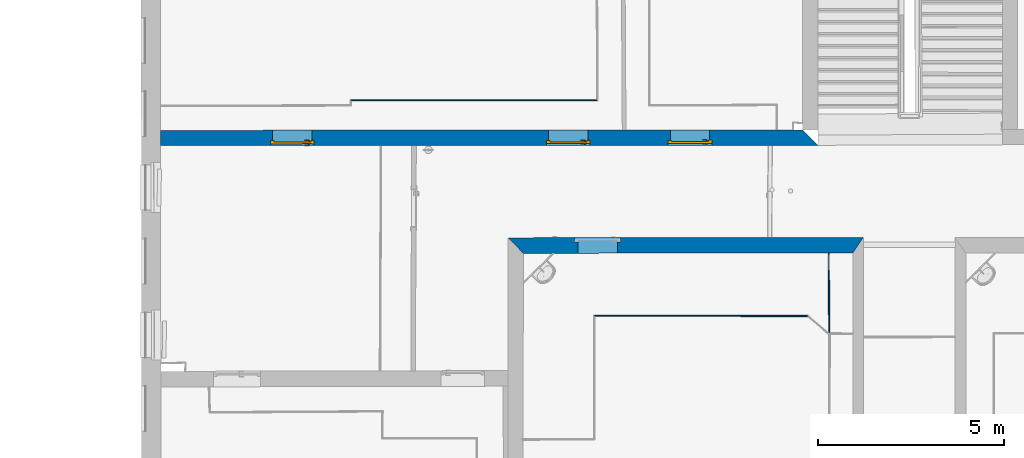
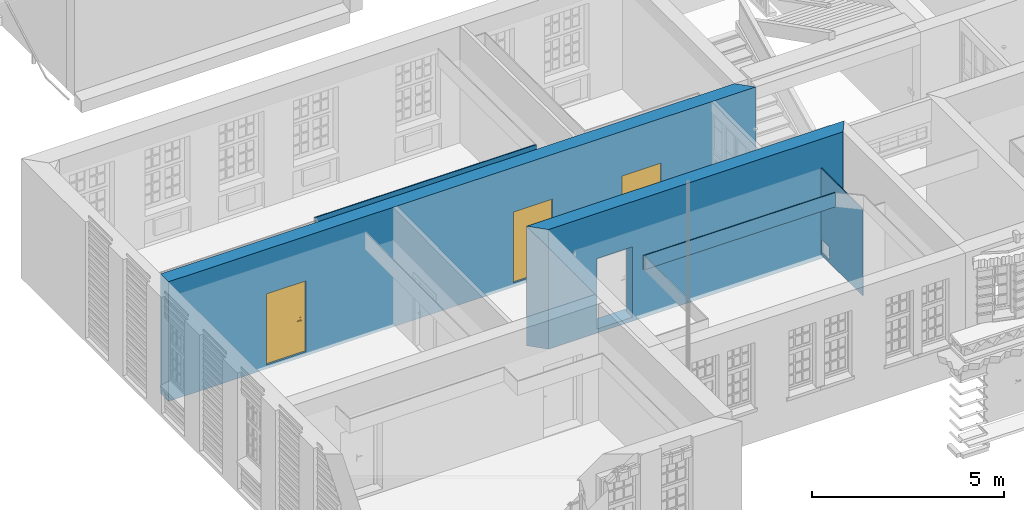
# One storey, part 21 of 158: 5 walls, 3 doors, 5 openings.
"""IFC2X3 building model written with IfcOpenShell, lengths in metres."""

from ifc_helpers import new_model, entity, si_unit, converted_unit, derived_unit, money_unit, direction, frame, origin_with_axes, origin_2d_with_axis, place, context, subcontext, project, spatial, polyline, rectangle, outline, extrude, faceted_brep, source, transform, mapped, material, layer, layer_set, layer_usage, type_object, element, fill, save


model = new_model("IFC2X3")

# Units and contexts
model_context = context("Model", 3, precision=1e-05, world=origin_with_axes(), true_north=direction((0.0, 1.0)))
body_context = subcontext(model_context, "Body", "Model", "MODEL_VIEW")
ifc_project = project(units=[si_unit("LENGTHUNIT", "METRE"), si_unit("AREAUNIT", "SQUARE_METRE"), si_unit("VOLUMEUNIT", "CUBIC_METRE"), converted_unit("PLANEANGLEUNIT", "DEGREE", entity("IfcPlaneAngleMeasure", 0.0174532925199), si_unit("PLANEANGLEUNIT", "RADIAN"), dimensions=[0, 0, 0, 0, 0, 0, 0]), money_unit("EUR"), converted_unit("TIMEUNIT", "Year", entity("IfcTimeMeasure", 31556926.0), si_unit("TIMEUNIT", "SECOND"), dimensions=[0, 0, 1, 0, 0, 0, 0]), si_unit("MASSUNIT", "GRAM", prefix="KILO"), si_unit("THERMODYNAMICTEMPERATUREUNIT", "DEGREE_CELSIUS"), si_unit("LUMINOUSINTENSITYUNIT", "LUMEN"), si_unit("ENERGYUNIT", "JOULE", prefix="MEGA"), derived_unit("THERMALCONDUCTANCEUNIT", [(si_unit("POWERUNIT", "WATT"), 1), (si_unit("LENGTHUNIT", "METRE"), -1), (si_unit("THERMODYNAMICTEMPERATUREUNIT", "KELVIN"), -1)]), derived_unit("SPECIFICHEATCAPACITYUNIT", [(si_unit("ENERGYUNIT", "JOULE"), 1), (si_unit("MASSUNIT", "GRAM", prefix="KILO"), -1), (si_unit("THERMODYNAMICTEMPERATUREUNIT", "KELVIN"), -1)]), derived_unit("MASSDENSITYUNIT", [(si_unit("MASSUNIT", "GRAM", prefix="KILO"), 1), (si_unit("VOLUMEUNIT", "CUBIC_METRE"), -1)])], contexts=[model_context])

# Site, building, storey
site_placement = place(None, origin_with_axes())
site = spatial("IfcSite", under=ifc_project, at=site_placement, Name="Gelände", CompositionType="ELEMENT")
building_placement = place(site_placement, origin_with_axes())
building = spatial("IfcBuilding", under=site, at=building_placement, Name="Gebäude", CompositionType="ELEMENT")
storey_placement = place(building_placement, origin_with_axes())
storey = spatial("IfcBuildingStorey", under=building, at=storey_placement, Name="ERDGESCHOSS", CompositionType="ELEMENT", Elevation=0.0)

# Wall, opening
ifc_material_1 = material(Name="05_ALLGEMEIN - TRAGENDE BAUTEILE")
ifc_layer_1 = layer(ifc_material_1, 0.42, ventilated="UNKNOWN")
ifc_layer_set_1 = layer_set([ifc_layer_1], Name="05_ALLGEMEIN - TRAGENDE BAUTEILE 0.42")
ifc_layer_usage_1 = layer_usage(ifc_layer_set_1, "AXIS2", "NEGATIVE", 0.42)
wall_type_1 = type_object("IfcWallType", Name="05_ALLGEMEIN - TRAGENDE BAUTEILE 420", PredefinedType="ELEMENTEDWALL")
wall_1_placement = place(storey_placement, frame((-8.89596887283, 16.7844638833, -0.21), z_axis=(0.0, 0.0, 1.0), x_axis=(-0.999998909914, -0.00147654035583, 0.0)))
wall_1 = element("IfcWallStandardCase", 1, at=wall_1_placement, inside=storey, type_object=wall_type_1, material=ifc_layer_usage_1, Name="Wand-036", ObjectType="ELEMENTEDWALL", context=body_context, shape_type="SweptSolid", body=[
    extrude(outline(polyline([(-0.280000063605, 0.0), (9.29327818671, 0.0), (8.87957934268, 0.42), (0.000283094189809, 0.42), (-0.280000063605, 0.0)])), origin_with_axes(), (0.0, 0.0, 1.0), 3.81),
])
opening_1_placement = place(wall_1_placement, frame((6.87879197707, 0.0, 0.129867), z_axis=(0.0, 0.0, 1.0), x_axis=(1.0, 0.0, 0.0)))
element("IfcOpeningElement", 2, at=opening_1_placement, cuts=wall_1, Name="Tür-022", context=body_context, shape_type="SweptSolid", body=[
    extrude(rectangle(XDim=1.05907517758, YDim=2.24387033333, at=origin_2d_with_axis()), frame((0.0, 0.12, 1.12193516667), z_axis=(0.0, 1.0, 0.0), x_axis=(1.0, 0.0, 0.0)), (0.0, 0.0, 1.0), 0.72),
    extrude(rectangle(XDim=1.23907517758, YDim=2.33387033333, at=origin_2d_with_axis()), frame((0.0, 0.03, 1.16693516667), z_axis=(0.0, -1.0, 0.0), x_axis=(1.0, 0.0, 0.0)), (0.0, 0.0, -1.0), 0.09),
    extrude(rectangle(XDim=1.23907517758, YDim=2.33387033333, at=origin_2d_with_axis()), frame((0.0, 0.03, 1.16693516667), z_axis=(0.0, -1.0, 0.0), x_axis=(1.0, 0.0, 0.0)), (0.0, 0.0, 1.0), 0.45),
])

ifc_material_2 = material(Name="43_Gipskarton")
ifc_layer_2 = layer(ifc_material_2, 0.03, ventilated="UNKNOWN")
ifc_layer_set_2 = layer_set([ifc_layer_2], Name="43_Gipskarton 0.03")
ifc_layer_usage_2 = layer_usage(ifc_layer_set_2, "AXIS2", "NEGATIVE", 0.03)
wall_type_2 = type_object("IfcWallType", Name="43_Gipskarton 30", PredefinedType="ELEMENTEDWALL")
wall_2_placement = place(storey_placement, frame((-9.563390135, 16.7834784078, -0.08), z_axis=(0.0, 0.0, 1.0), x_axis=(0.00328979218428, -0.999994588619, 0.0)))
wall_2 = element("IfcWallStandardCase", 3, at=wall_2_placement, inside=storey, type_object=wall_type_2, material=ifc_layer_usage_2, Name="Wand-033", ObjectType="ELEMENTEDWALL", context=body_context, shape_type="SweptSolid", body=[
    extrude(outline(polyline([(0.42000069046, 0.0), (2.60498825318, 0.0), (2.57522811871, 0.03), (0.420055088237, 0.03), (0.42000069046, 0.0)])), origin_with_axes(), (0.0, 0.0, 1.0), 2.755),
])
opening_2_placement = place(wall_2_placement, frame((0.669728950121, 0.0, 0.102871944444), z_axis=(0.0, 0.0, 1.0), x_axis=(1.0, 0.0, 0.0)))
element("IfcOpeningElement", 4, at=opening_2_placement, cuts=wall_2, Name="Tür-022", context=body_context, shape_type="SweptSolid", body=[
    extrude(rectangle(XDim=0.40005727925, YDim=0.399785, at=origin_2d_with_axis()), frame((0.0, 0.03, 0.1998925), z_axis=(0.0, -1.0, 0.0), x_axis=(-1.0, 0.0, 0.0)), (0.0, 0.0, 1.0), 0.09),
])

# Walls
ifc_layer_usage_3 = layer_usage(ifc_layer_set_2, "AXIS2", "NEGATIVE", 0.03)
wall_3_placement = place(storey_placement, frame((-15.7943394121, 20.4846184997, 2.565), z_axis=(0.0, 0.0, 1.0), x_axis=(-0.999999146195, 0.00130675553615, 0.0)))
element("IfcWallStandardCase", 5, at=wall_3_placement, inside=storey, type_object=wall_type_2, material=ifc_layer_usage_3, Name="Wand-039", ObjectType="ELEMENTEDWALL", context=body_context, shape_type="SweptSolid", body=[
    extrude(outline(polyline([(0.0, 0.0), (6.64618609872, 0.0), (6.61614687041, 0.03), (-0.0301915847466, 0.03), (0.0, 0.0)])), origin_with_axes(), (0.0, 0.0, 1.0), 0.55),
])
ifc_layer_usage_4 = layer_usage(ifc_layer_set_2, "AXIS2", "NEGATIVE", 0.03)
wall_4_placement = place(storey_placement, frame((-15.84994821, 14.6575733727, 2.675), z_axis=(0.0, 0.0, 1.0), x_axis=(0.999998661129, -0.00163638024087, 0.0)))
element("IfcWallStandardCase", 6, at=wall_4_placement, inside=storey, type_object=wall_type_2, material=ifc_layer_usage_4, Name="Wand-041", ObjectType="ELEMENTEDWALL", context=body_context, shape_type="SweptSolid", body=[
    extrude(outline(polyline([(0.0, 0.0), (5.73126220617, 0.0), (5.74222851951, 0.03), (-0.0300583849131, 0.03), (0.0, 0.0)])), origin_with_axes(), (0.0, 0.0, 1.0), 0.455),
])

# Wall, openings, doors
ifc_layer_3 = layer(ifc_material_1, 0.414615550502, ventilated="UNKNOWN")
ifc_layer_set_3 = layer_set([ifc_layer_3], Name="05_ALLGEMEIN - TRAGENDE BAUTEILE 0.414616")
ifc_layer_usage_5 = layer_usage(ifc_layer_set_3, "AXIS2", "NEGATIVE", 0.414615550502)
wall_type_3 = type_object("IfcWallType", Name="05_ALLGEMEIN - TRAGENDE BAUTEILE 415", PredefinedType="ELEMENTEDWALL")
wall_5_placement = place(storey_placement, frame((-28.0623896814, 19.2499160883, -0.21), z_axis=(0.0, 0.0, 1.0), x_axis=(0.999999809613, 0.00061706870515, 0.0)))
wall_5 = element("IfcWallStandardCase", 7, at=wall_5_placement, inside=storey, type_object=wall_type_3, material=ifc_layer_usage_5, Name="Wand-038", ObjectType="ELEMENTEDWALL", context=body_context, shape_type="SweptSolid", body=[
    extrude(outline(polyline([(0.520000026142, 0.0), (18.2209125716, 0.0), (17.8111293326, 0.414615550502), (0.519868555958, 0.414615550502), (0.520000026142, 0.0)])), origin_with_axes(), (0.0, 0.0, 1.0), 3.81),
])
opening_3_placement = place(wall_5_placement, frame((14.7743915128, 0.0, 0.129867), z_axis=(0.0, 0.0, 1.0), x_axis=(1.0, 0.0, 0.0)))
opening_3 = element("IfcOpeningElement", 8, at=opening_3_placement, cuts=wall_5, Name="Tür-023", context=body_context, shape_type="SweptSolid", body=[
    extrude(rectangle(XDim=1.05848170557, YDim=2.198423, at=origin_2d_with_axis()), frame((0.0, 0.138431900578, 1.0992115), z_axis=(0.0, -1.0, 0.0), x_axis=(-1.0, 0.0, 0.0)), (0.0, 0.0, -1.0), 0.690799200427),
    extrude(rectangle(XDim=1.17848170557, YDim=2.258423, at=origin_2d_with_axis()), frame((0.0, 0.0484319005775, 1.1292115), z_axis=(0.0, 1.0, 0.0), x_axis=(-1.0, 0.0, 0.0)), (0.0, 0.0, 1.0), 0.09),
    extrude(rectangle(XDim=1.17848170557, YDim=2.258423, at=origin_2d_with_axis()), frame((0.0, 0.0484319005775, 1.1292115), z_axis=(0.0, 1.0, 0.0), x_axis=(-1.0, 0.0, 0.0)), (0.0, 0.0, -1.0), 0.46304745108),
])
opening_4_placement = place(wall_5_placement, frame((4.06768350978, 0.0, 0.129867), z_axis=(0.0, 0.0, 1.0), x_axis=(1.0, 0.0, 0.0)))
opening_4 = element("IfcOpeningElement", 9, at=opening_4_placement, cuts=wall_5, Name="Tür-023", context=body_context, shape_type="SweptSolid", body=[
    extrude(rectangle(XDim=1.05848170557, YDim=2.198423, at=origin_2d_with_axis()), frame((0.0, 0.138431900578, 1.0992115), z_axis=(0.0, -1.0, 0.0), x_axis=(-1.0, 0.0, 0.0)), (0.0, 0.0, -1.0), 0.690799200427),
    extrude(rectangle(XDim=1.17848170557, YDim=2.258423, at=origin_2d_with_axis()), frame((0.0, 0.0484319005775, 1.1292115), z_axis=(0.0, 1.0, 0.0), x_axis=(-1.0, 0.0, 0.0)), (0.0, 0.0, 1.0), 0.09),
    extrude(rectangle(XDim=1.17848170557, YDim=2.258423, at=origin_2d_with_axis()), frame((0.0, 0.0484319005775, 1.1292115), z_axis=(0.0, 1.0, 0.0), x_axis=(-1.0, 0.0, 0.0)), (0.0, 0.0, -1.0), 0.46304745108),
])
opening_5_placement = place(wall_5_placement, frame((11.4995060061, 0.0, 0.129867), z_axis=(0.0, 0.0, 1.0), x_axis=(1.0, 0.0, 0.0)))
opening_5 = element("IfcOpeningElement", 10, at=opening_5_placement, cuts=wall_5, Name="Tür-023", context=body_context, shape_type="SweptSolid", body=[
    extrude(rectangle(XDim=1.05848170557, YDim=2.198423, at=origin_2d_with_axis()), frame((0.0, 0.138431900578, 1.0992115), z_axis=(0.0, -1.0, 0.0), x_axis=(-1.0, 0.0, 0.0)), (0.0, 0.0, -1.0), 0.690799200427),
    extrude(rectangle(XDim=1.17848170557, YDim=2.258423, at=origin_2d_with_axis()), frame((0.0, 0.0484319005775, 1.1292115), z_axis=(0.0, 1.0, 0.0), x_axis=(-1.0, 0.0, 0.0)), (0.0, 0.0, 1.0), 0.09),
    extrude(rectangle(XDim=1.17848170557, YDim=2.258423, at=origin_2d_with_axis()), frame((0.0, 0.0484319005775, 1.1292115), z_axis=(0.0, 1.0, 0.0), x_axis=(-1.0, 0.0, 0.0)), (0.0, 0.0, -1.0), 0.46304745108),
])
door_style = type_object("IfcDoorStyle", Name="Blockrahmentür 1-Fl 25", ConstructionType="NOTDEFINED", OperationType="SINGLE_SWING_RIGHT", ParameterTakesPrecedence=False, Sizeable=False)
shared_shape = source(origin_with_axes(), body_context, "Body", "Brep", [
    faceted_brep([(0.589240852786, -0.09, 0.0), (0.589240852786, -0.05, 0.0), (0.589240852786, -0.05, 2.258423), (0.589240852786, -0.09, 2.258423), (0.499240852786, -0.09, 0.0), (0.499240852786, -0.05, 0.0), (0.499240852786, -0.05, 2.168423), (0.1121, -0.05, 2.168423), (0.0001, -0.05, 2.168423), (-0.499240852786, -0.05, 2.168423), (-0.499240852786, -0.05, 0.0), (-0.589240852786, -0.05, 0.0), (-0.589240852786, -0.05, 2.258423), (-0.589240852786, -0.09, 2.258423), (-0.589240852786, -0.09, 0.0), (-0.499240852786, -0.09, 0.0), (-0.499240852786, -0.09, 2.168423), (0.0001, -0.09, 2.168423), (0.1121, -0.09, 2.168423), (0.499240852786, -0.09, 2.168423)], [[[0, 1, 2, 3]], [[4, 5, 1, 0]], [[1, 5, 6, 7, 8, 9, 10, 11, 12, 2]], [[3, 2, 12, 13]], [[0, 3, 13, 14, 15, 16, 17, 18, 19, 4]], [[19, 6, 5, 4]], [[18, 7, 6, 19]], [[17, 8, 7, 18]], [[16, 9, 8, 17]], [[15, 10, 9, 16]], [[14, 11, 10, 15]], [[13, 12, 11, 14]]]),
    faceted_brep([(0.589240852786, -0.05, 0.0), (0.589240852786, 0.0, 0.0), (0.589240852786, 0.0, 2.258423), (0.589240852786, -0.05, 2.258423), (0.511240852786, -0.05, 0.0), (0.511240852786, 0.0, 0.0), (0.511240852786, 0.0, 2.180423), (0.1001, 0.0, 2.180423), (0.0121, 0.0, 2.180423), (-0.511240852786, 0.0, 2.180423), (-0.511240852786, 0.0, 0.0), (-0.589240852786, 0.0, 0.0), (-0.589240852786, 0.0, 2.258423), (-0.589240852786, -0.05, 2.258423), (-0.589240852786, -0.05, 0.0), (-0.511240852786, -0.05, 0.0), (-0.511240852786, -0.05, 2.180423), (0.0121, -0.05, 2.180423), (0.1001, -0.05, 2.180423), (0.511240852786, -0.05, 2.180423)], [[[0, 1, 2, 3]], [[4, 5, 1, 0]], [[1, 5, 6, 7, 8, 9, 10, 11, 12, 2]], [[3, 2, 12, 13]], [[0, 3, 13, 14, 15, 16, 17, 18, 19, 4]], [[19, 6, 5, 4]], [[18, 7, 6, 19]], [[17, 8, 7, 18]], [[16, 9, 8, 17]], [[15, 10, 9, 16]], [[14, 11, 10, 15]], [[13, 12, 11, 14]]]),
    faceted_brep([(0.511240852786, -0.002, 0.0), (-0.511240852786, -0.002, 0.0), (-0.511240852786, -0.002, 2.180423), (0.511240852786, -0.002, 2.180423), (0.511240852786, -0.05, 0.0), (-0.511240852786, -0.05, 0.0), (-0.511240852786, -0.05, 2.180423), (0.511240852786, -0.05, 2.180423)], [[[0, 1, 2, 3]], [[1, 0, 4, 5]], [[2, 1, 5, 6]], [[3, 2, 6, 7]], [[0, 3, 7, 4]], [[5, 4, 7, 6]]]),
    faceted_brep([(-0.455943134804, -0.09, 1.05647213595), (-0.451240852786, -0.09, 1.058), (-0.451240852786, -0.07, 1.058), (-0.455943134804, -0.07, 1.05647213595), (-0.458849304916, -0.09, 1.05247213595), (-0.458849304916, -0.09, 1.04752786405), (-0.455943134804, -0.09, 1.04352786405), (-0.451240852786, -0.09, 1.042), (-0.446538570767, -0.09, 1.04352786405), (-0.443632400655, -0.09, 1.04752786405), (-0.443632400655, -0.09, 1.05247213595), (-0.446538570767, -0.09, 1.05647213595), (-0.446538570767, -0.07, 1.05647213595), (-0.451240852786, -0.068, 1.06), (-0.457118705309, -0.068, 1.05809016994), (-0.458849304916, -0.07, 1.05247213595), (-0.458849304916, -0.07, 1.04752786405), (-0.455943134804, -0.07, 1.04352786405), (-0.451240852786, -0.07, 1.042), (-0.446538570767, -0.07, 1.04352786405), (-0.443632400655, -0.07, 1.04752786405), (-0.443632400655, -0.07, 1.05247213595), (-0.445363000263, -0.068, 1.05809016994), (-0.451240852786, -0.06, 1.06), (-0.457118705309, -0.06, 1.05809016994), (-0.460751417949, -0.068, 1.05309016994), (-0.460751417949, -0.068, 1.04690983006), (-0.457118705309, -0.068, 1.04190983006), (-0.451240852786, -0.068, 1.04), (-0.445363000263, -0.068, 1.04190983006), (-0.441730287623, -0.068, 1.04690983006), (-0.441730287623, -0.068, 1.05309016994), (-0.445363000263, -0.06, 1.05809016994), (-0.441730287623, -0.06, 1.05309016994), (-0.441730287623, -0.06, 1.04690983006), (-0.445363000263, -0.06, 1.04190983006), (-0.451240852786, -0.06, 1.04), (-0.457118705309, -0.06, 1.04190983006), (-0.460751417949, -0.06, 1.04690983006), (-0.460751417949, -0.06, 1.05309016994)], [[[0, 1, 2, 3]], [[1, 0, 4, 5, 6, 7, 8, 9, 10, 11]], [[1, 11, 12, 2]], [[3, 2, 13, 14]], [[4, 0, 3, 15]], [[5, 4, 15, 16]], [[6, 5, 16, 17]], [[7, 6, 17, 18]], [[8, 7, 18, 19]], [[9, 8, 19, 20]], [[10, 9, 20, 21]], [[11, 10, 21, 12]], [[2, 12, 22, 13]], [[14, 13, 23, 24]], [[15, 3, 14, 25]], [[16, 15, 25, 26]], [[17, 16, 26, 27]], [[18, 17, 27, 28]], [[19, 18, 28, 29]], [[20, 19, 29, 30]], [[21, 20, 30, 31]], [[12, 21, 31, 22]], [[13, 22, 32, 23]], [[23, 32, 33, 34, 35, 36, 37, 38, 39, 24]], [[25, 14, 24, 39]], [[26, 25, 39, 38]], [[27, 26, 38, 37]], [[28, 27, 37, 36]], [[29, 28, 36, 35]], [[30, 29, 35, 34]], [[31, 30, 34, 33]], [[22, 31, 33, 32]]]),
    faceted_brep([(-0.439052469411, -0.06, 1.11759695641), (-0.446797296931, -0.06, 1.12195567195), (-0.45568440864, -0.06, 1.12195567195), (-0.463429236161, -0.06, 1.11759695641), (-0.468040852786, -0.06, 1.11), (-0.473740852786, -0.06, 1.11), (-0.473740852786, -0.06, 0.89), (-0.468040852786, -0.06, 0.89), (-0.463429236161, -0.06, 0.882403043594), (-0.45568440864, -0.06, 0.878044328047), (-0.446797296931, -0.06, 0.878044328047), (-0.439052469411, -0.06, 0.882403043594), (-0.434440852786, -0.06, 0.89), (-0.428740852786, -0.06, 0.89), (-0.428740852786, -0.06, 1.11), (-0.434440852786, -0.06, 1.11), (-0.451240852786, -0.06, 0.967425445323), (-0.445865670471, -0.06, 0.965143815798), (-0.44377302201, -0.06, 0.959692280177), (-0.446240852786, -0.06, 0.9544), (-0.446240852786, -0.06, 0.9375), (-0.44770531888, -0.06, 0.933964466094), (-0.451240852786, -0.06, 0.9325), (-0.454776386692, -0.06, 0.933964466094), (-0.456240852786, -0.06, 0.9375), (-0.456240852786, -0.06, 0.9544), (-0.458708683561, -0.06, 0.959692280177), (-0.456616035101, -0.06, 0.965143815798), (-0.439052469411, -0.05, 1.11759695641), (-0.446797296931, -0.05, 1.12195567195), (-0.45568440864, -0.05, 1.12195567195), (-0.463429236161, -0.05, 1.11759695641), (-0.468040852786, -0.05, 1.11), (-0.473740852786, -0.05, 1.11), (-0.473740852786, -0.05, 0.89), (-0.468040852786, -0.05, 0.89), (-0.463429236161, -0.05, 0.882403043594), (-0.45568440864, -0.05, 0.878044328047), (-0.446797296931, -0.05, 0.878044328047), (-0.439052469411, -0.05, 0.882403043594), (-0.434440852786, -0.05, 0.89), (-0.428740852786, -0.05, 0.89), (-0.428740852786, -0.05, 1.11), (-0.434440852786, -0.05, 1.11), (-0.451240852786, -0.05, 0.967425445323), (-0.445865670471, -0.05, 0.965143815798), (-0.44377302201, -0.05, 0.959692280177), (-0.446240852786, -0.05, 0.9544), (-0.446240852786, -0.05, 0.9375), (-0.44770531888, -0.05, 0.933964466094), (-0.451240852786, -0.05, 0.9325), (-0.454776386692, -0.05, 0.933964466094), (-0.456240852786, -0.05, 0.9375), (-0.456240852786, -0.05, 0.9544), (-0.458708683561, -0.05, 0.959692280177), (-0.456616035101, -0.05, 0.965143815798)], [[[0, 1, 2, 3, 4, 5, 6, 7, 8, 9, 10, 11, 12, 13, 14, 15], [16, 17, 18, 19, 20, 21, 22, 23, 24, 25, 26, 27]], [[1, 0, 28, 29]], [[2, 1, 29, 30]], [[3, 2, 30, 31]], [[4, 3, 31, 32]], [[5, 4, 32, 33]], [[6, 5, 33, 34]], [[7, 6, 34, 35]], [[8, 7, 35, 36]], [[9, 8, 36, 37]], [[10, 9, 37, 38]], [[11, 10, 38, 39]], [[12, 11, 39, 40]], [[13, 12, 40, 41]], [[14, 13, 41, 42]], [[15, 14, 42, 43]], [[0, 15, 43, 28]], [[17, 16, 44, 45]], [[18, 17, 45, 46]], [[19, 18, 46, 47]], [[19, 47, 48, 20]], [[20, 48, 49, 21]], [[21, 49, 50, 22]], [[22, 50, 51, 23]], [[23, 51, 52, 24]], [[53, 25, 24, 52]], [[26, 25, 53, 54]], [[27, 26, 54, 55]], [[16, 27, 55, 44]], [[40, 39, 38, 37, 36, 35, 34, 33, 32, 31, 30, 29, 28, 43, 42, 41], [54, 53, 52, 51, 50, 49, 48, 47, 46, 45, 44, 55]]]),
    faceted_brep([(-0.336987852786, -0.09, 1.057158), (-0.336987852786, -0.105, 1.057158), (-0.336986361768, -0.105, 1.05719388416), (-0.336986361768, -0.09, 1.05719388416), (-0.364015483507, -0.09, 1.06432652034), (-0.364015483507, -0.105, 1.06432652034), (-0.391843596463, -0.105, 1.06706086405), (-0.419749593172, -0.105, 1.06529002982), (-0.447008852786, -0.105, 1.05906), (-0.453411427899, -0.105, 1.05976125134), (-0.458913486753, -0.105, 1.05641280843), (-0.461232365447, -0.105, 1.05040385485), (-0.459406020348, -0.105, 1.04422735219), (-0.45419215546, -0.105, 1.04044577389), (-0.44775387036, -0.105, 1.04062800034), (-0.44276224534, -0.105, 1.04469843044), (-0.442782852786, -0.105, 1.044666), (-0.417494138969, -0.105, 1.05019878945), (-0.391651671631, -0.105, 1.05171460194), (-0.365889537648, -0.105, 1.04917624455), (-0.340839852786, -0.105, 1.042646), (-0.335296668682, -0.105, 1.04356849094), (-0.331935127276, -0.105, 1.04807159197), (-0.332626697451, -0.105, 1.05364829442), (-0.332626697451, -0.09, 1.05364829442), (-0.331935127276, -0.09, 1.04807159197), (-0.335296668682, -0.09, 1.04356849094), (-0.340839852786, -0.09, 1.042646), (-0.365889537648, -0.09, 1.04917624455), (-0.391651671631, -0.09, 1.05171460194), (-0.417494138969, -0.09, 1.05019878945), (-0.442782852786, -0.09, 1.044666), (-0.44276224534, -0.09, 1.04469843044), (-0.44775387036, -0.09, 1.04062800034), (-0.45419215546, -0.09, 1.04044577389), (-0.459406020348, -0.09, 1.04422735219), (-0.461232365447, -0.09, 1.05040385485), (-0.458913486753, -0.09, 1.05641280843), (-0.453411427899, -0.09, 1.05976125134), (-0.447008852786, -0.09, 1.05906), (-0.419749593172, -0.09, 1.06529002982), (-0.391843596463, -0.09, 1.06706086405)], [[[0, 1, 2, 3]], [[4, 5, 1, 0]], [[1, 5, 6, 7, 8, 9, 10, 11, 12, 13, 14, 15, 16, 17, 18, 19, 20, 21, 22, 23, 2]], [[3, 2, 23, 24]], [[0, 3, 24, 25, 26, 27, 28, 29, 30, 31, 32, 33, 34, 35, 36, 37, 38, 39, 40, 41, 4]], [[41, 6, 5, 4]], [[40, 7, 6, 41]], [[39, 8, 7, 40]], [[38, 9, 8, 39]], [[37, 10, 9, 38]], [[36, 11, 10, 37]], [[35, 12, 11, 36]], [[34, 13, 12, 35]], [[33, 14, 13, 34]], [[32, 15, 14, 33]], [[31, 16, 15, 32]], [[30, 17, 16, 31]], [[29, 18, 17, 30]], [[28, 19, 18, 29]], [[27, 20, 19, 28]], [[26, 21, 20, 27]], [[25, 22, 21, 26]], [[24, 23, 22, 25]]]),
    faceted_brep([(-0.455943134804, 0.038, 1.05647213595), (-0.455943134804, 0.018, 1.05647213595), (-0.451240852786, 0.018, 1.058), (-0.451240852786, 0.038, 1.058), (-0.458849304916, 0.038, 1.05247213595), (-0.458849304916, 0.018, 1.05247213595), (-0.457118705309, 0.016, 1.05809016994), (-0.451240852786, 0.016, 1.06), (-0.446538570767, 0.018, 1.05647213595), (-0.446538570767, 0.038, 1.05647213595), (-0.443632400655, 0.038, 1.05247213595), (-0.443632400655, 0.038, 1.04752786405), (-0.446538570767, 0.038, 1.04352786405), (-0.451240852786, 0.038, 1.042), (-0.455943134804, 0.038, 1.04352786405), (-0.458849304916, 0.038, 1.04752786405), (-0.458849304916, 0.018, 1.04752786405), (-0.460751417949, 0.016, 1.05309016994), (-0.457118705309, 0.008, 1.05809016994), (-0.451240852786, 0.008, 1.06), (-0.445363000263, 0.016, 1.05809016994), (-0.443632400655, 0.018, 1.05247213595), (-0.443632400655, 0.018, 1.04752786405), (-0.446538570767, 0.018, 1.04352786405), (-0.451240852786, 0.018, 1.042), (-0.455943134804, 0.018, 1.04352786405), (-0.460751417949, 0.016, 1.04690983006), (-0.460751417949, 0.008, 1.05309016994), (-0.460751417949, 0.008, 1.04690983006), (-0.457118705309, 0.008, 1.04190983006), (-0.451240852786, 0.008, 1.04), (-0.445363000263, 0.008, 1.04190983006), (-0.441730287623, 0.008, 1.04690983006), (-0.441730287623, 0.008, 1.05309016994), (-0.445363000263, 0.008, 1.05809016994), (-0.441730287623, 0.016, 1.05309016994), (-0.441730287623, 0.016, 1.04690983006), (-0.445363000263, 0.016, 1.04190983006), (-0.451240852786, 0.016, 1.04), (-0.457118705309, 0.016, 1.04190983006)], [[[0, 1, 2, 3]], [[4, 5, 1, 0]], [[1, 6, 7, 2]], [[3, 2, 8, 9]], [[3, 9, 10, 11, 12, 13, 14, 15, 4, 0]], [[15, 16, 5, 4]], [[5, 17, 6, 1]], [[6, 18, 19, 7]], [[2, 7, 20, 8]], [[9, 8, 21, 10]], [[10, 21, 22, 11]], [[11, 22, 23, 12]], [[12, 23, 24, 13]], [[13, 24, 25, 14]], [[14, 25, 16, 15]], [[16, 26, 17, 5]], [[17, 27, 18, 6]], [[19, 18, 27, 28, 29, 30, 31, 32, 33, 34]], [[7, 19, 34, 20]], [[8, 20, 35, 21]], [[21, 35, 36, 22]], [[22, 36, 37, 23]], [[23, 37, 38, 24]], [[24, 38, 39, 25]], [[25, 39, 26, 16]], [[26, 28, 27, 17]], [[39, 29, 28, 26]], [[38, 30, 29, 39]], [[37, 31, 30, 38]], [[36, 32, 31, 37]], [[35, 33, 32, 36]], [[20, 34, 33, 35]]]),
    faceted_brep([(-0.439052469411, -0.002, 1.11759695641), (-0.446797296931, -0.002, 1.12195567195), (-0.45568440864, -0.002, 1.12195567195), (-0.463429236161, -0.002, 1.11759695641), (-0.468040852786, -0.002, 1.11), (-0.473740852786, -0.002, 1.11), (-0.473740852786, -0.002, 0.89), (-0.468040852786, -0.002, 0.89), (-0.463429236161, -0.002, 0.882403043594), (-0.45568440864, -0.002, 0.878044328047), (-0.446797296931, -0.002, 0.878044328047), (-0.439052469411, -0.002, 0.882403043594), (-0.434440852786, -0.002, 0.89), (-0.428740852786, -0.002, 0.89), (-0.428740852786, -0.002, 1.11), (-0.434440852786, -0.002, 1.11), (-0.451240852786, -0.002, 0.967425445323), (-0.445865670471, -0.002, 0.965143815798), (-0.44377302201, -0.002, 0.959692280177), (-0.446240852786, -0.002, 0.9544), (-0.446240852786, -0.002, 0.9375), (-0.44770531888, -0.002, 0.933964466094), (-0.451240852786, -0.002, 0.9325), (-0.454776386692, -0.002, 0.933964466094), (-0.456240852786, -0.002, 0.9375), (-0.456240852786, -0.002, 0.9544), (-0.458708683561, -0.002, 0.959692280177), (-0.456616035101, -0.002, 0.965143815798), (-0.446797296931, 0.008, 1.12195567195), (-0.439052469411, 0.008, 1.11759695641), (-0.45568440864, 0.008, 1.12195567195), (-0.463429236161, 0.008, 1.11759695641), (-0.468040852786, 0.008, 1.11), (-0.473740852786, 0.008, 1.11), (-0.473740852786, 0.008, 0.89), (-0.468040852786, 0.008, 0.89), (-0.463429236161, 0.008, 0.882403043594), (-0.45568440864, 0.008, 0.878044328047), (-0.446797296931, 0.008, 0.878044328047), (-0.439052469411, 0.008, 0.882403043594), (-0.434440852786, 0.008, 0.89), (-0.428740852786, 0.008, 0.89), (-0.428740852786, 0.008, 1.11), (-0.434440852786, 0.008, 1.11), (-0.451240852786, 0.008, 0.967425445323), (-0.445865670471, 0.008, 0.965143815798), (-0.44377302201, 0.008, 0.959692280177), (-0.446240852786, 0.008, 0.9544), (-0.446240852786, 0.008, 0.9375), (-0.44770531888, 0.008, 0.933964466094), (-0.451240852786, 0.008, 0.9325), (-0.454776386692, 0.008, 0.933964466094), (-0.456240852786, 0.008, 0.9375), (-0.456240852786, 0.008, 0.9544), (-0.458708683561, 0.008, 0.959692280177), (-0.456616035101, 0.008, 0.965143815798)], [[[0, 1, 2, 3, 4, 5, 6, 7, 8, 9, 10, 11, 12, 13, 14, 15], [16, 17, 18, 19, 20, 21, 22, 23, 24, 25, 26, 27]], [[28, 1, 0, 29]], [[30, 2, 1, 28]], [[31, 3, 2, 30]], [[32, 4, 3, 31]], [[33, 5, 4, 32]], [[34, 6, 5, 33]], [[35, 7, 6, 34]], [[36, 8, 7, 35]], [[37, 9, 8, 36]], [[38, 10, 9, 37]], [[39, 11, 10, 38]], [[40, 12, 11, 39]], [[41, 13, 12, 40]], [[42, 14, 13, 41]], [[43, 15, 14, 42]], [[29, 0, 15, 43]], [[17, 16, 44, 45]], [[18, 17, 45, 46]], [[19, 18, 46, 47]], [[19, 47, 48, 20]], [[20, 48, 49, 21]], [[21, 49, 50, 22]], [[22, 50, 51, 23]], [[23, 51, 52, 24]], [[53, 25, 24, 52]], [[26, 25, 53, 54]], [[27, 26, 54, 55]], [[16, 27, 55, 44]], [[40, 39, 38, 37, 36, 35, 34, 33, 32, 31, 30, 28, 29, 43, 42, 41], [54, 53, 52, 51, 50, 49, 48, 47, 46, 45, 44, 55]]]),
    faceted_brep([(-0.336987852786, 0.038, 1.057158), (-0.336986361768, 0.038, 1.05719388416), (-0.336986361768, 0.053, 1.05719388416), (-0.336987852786, 0.053, 1.057158), (-0.364015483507, 0.038, 1.06432652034), (-0.391843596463, 0.038, 1.06706086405), (-0.419749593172, 0.038, 1.06529002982), (-0.447008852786, 0.038, 1.05906), (-0.453411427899, 0.038, 1.05976125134), (-0.458913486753, 0.038, 1.05641280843), (-0.461232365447, 0.038, 1.05040385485), (-0.459406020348, 0.038, 1.04422735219), (-0.45419215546, 0.038, 1.04044577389), (-0.44775387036, 0.038, 1.04062800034), (-0.44276224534, 0.038, 1.04469843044), (-0.442782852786, 0.038, 1.044666), (-0.417494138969, 0.038, 1.05019878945), (-0.391651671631, 0.038, 1.05171460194), (-0.365889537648, 0.038, 1.04917624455), (-0.340839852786, 0.038, 1.042646), (-0.335296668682, 0.038, 1.04356849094), (-0.331935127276, 0.038, 1.04807159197), (-0.332626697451, 0.038, 1.05364829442), (-0.332626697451, 0.053, 1.05364829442), (-0.331935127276, 0.053, 1.04807159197), (-0.335296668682, 0.053, 1.04356849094), (-0.340839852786, 0.053, 1.042646), (-0.365889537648, 0.053, 1.04917624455), (-0.391651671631, 0.053, 1.05171460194), (-0.417494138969, 0.053, 1.05019878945), (-0.442782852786, 0.053, 1.044666), (-0.44276224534, 0.053, 1.04469843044), (-0.44775387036, 0.053, 1.04062800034), (-0.45419215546, 0.053, 1.04044577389), (-0.459406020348, 0.053, 1.04422735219), (-0.461232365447, 0.053, 1.05040385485), (-0.458913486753, 0.053, 1.05641280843), (-0.453411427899, 0.053, 1.05976125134), (-0.447008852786, 0.053, 1.05906), (-0.419749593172, 0.053, 1.06529002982), (-0.391843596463, 0.053, 1.06706086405), (-0.364015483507, 0.053, 1.06432652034)], [[[0, 1, 2, 3]], [[0, 4, 5, 6, 7, 8, 9, 10, 11, 12, 13, 14, 15, 16, 17, 18, 19, 20, 21, 22, 1]], [[1, 22, 23, 2]], [[3, 2, 23, 24, 25, 26, 27, 28, 29, 30, 31, 32, 33, 34, 35, 36, 37, 38, 39, 40, 41]], [[4, 0, 3, 41]], [[5, 4, 41, 40]], [[6, 5, 40, 39]], [[7, 6, 39, 38]], [[8, 7, 38, 37]], [[9, 8, 37, 36]], [[10, 9, 36, 35]], [[11, 10, 35, 34]], [[12, 11, 34, 33]], [[13, 12, 33, 32]], [[14, 13, 32, 31]], [[15, 14, 31, 30]], [[16, 15, 30, 29]], [[17, 16, 29, 28]], [[18, 17, 28, 27]], [[19, 18, 27, 26]], [[20, 19, 26, 25]], [[21, 20, 25, 24]], [[22, 21, 24, 23]]]),
])
door_1_placement = place(opening_3_placement, frame((0.499240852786, 0.0, 0.0), z_axis=(0.0, 0.0, 1.0), x_axis=(-1.0, 0.0, 0.0)))
door_1 = element("IfcDoor", 11, at=door_1_placement, inside=storey, type_object=door_style, Name="Tür-023", ObjectType="NOTDEFINED", OverallHeight=2.25842, OverallWidth=1.17848, context=body_context, shape_type="MappedRepresentation", body=[
    mapped(shared_shape, transform((0.499240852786, -0.0484319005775, 0.0))),
])
fill(opening_3, door_1)
door_2_placement = place(opening_4_placement, frame((0.499240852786, 0.0, 0.0), z_axis=(0.0, 0.0, 1.0), x_axis=(-1.0, 0.0, 0.0)))
door_2 = element("IfcDoor", 12, at=door_2_placement, inside=storey, type_object=door_style, Name="Tür-023", ObjectType="NOTDEFINED", OverallHeight=2.25842, OverallWidth=1.17848, context=body_context, shape_type="MappedRepresentation", body=[
    mapped(shared_shape, transform((0.499240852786, -0.0484319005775, 0.0))),
])
fill(opening_4, door_2)
door_3_placement = place(opening_5_placement, frame((0.499240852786, 0.0, 0.0), z_axis=(0.0, 0.0, 1.0), x_axis=(-1.0, 0.0, 0.0)))
door_3 = element("IfcDoor", 13, at=door_3_placement, inside=storey, type_object=door_style, Name="Tür-023", ObjectType="NOTDEFINED", OverallHeight=2.25842, OverallWidth=1.17848, context=body_context, shape_type="MappedRepresentation", body=[
    mapped(shared_shape, transform((0.499240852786, -0.0484319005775, 0.0))),
])
fill(opening_5, door_3)

save(model, "model.ifc")
